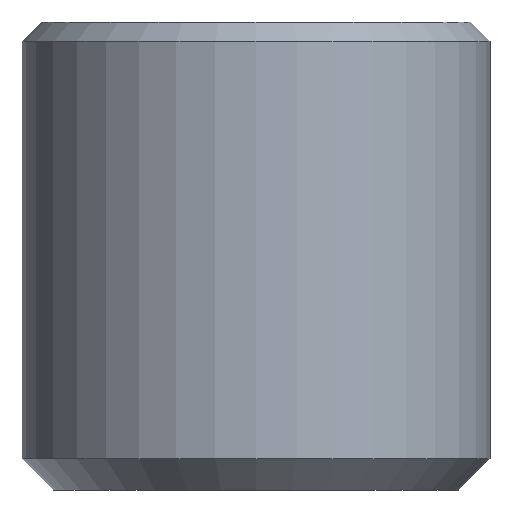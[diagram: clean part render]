
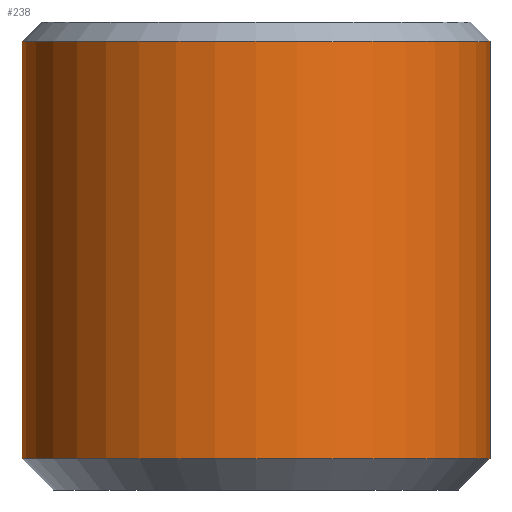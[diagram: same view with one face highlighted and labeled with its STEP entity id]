
A CAD part, front view. The second image highlights one B-rep face of the part: STEP entity #238.
In plain terms, the highlighted cylindrical face has radius 6 mm (diameter 12 mm), a partial arc.
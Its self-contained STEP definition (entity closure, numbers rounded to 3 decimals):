
#11 = CARTESIAN_POINT ( 'NONE',  ( -6., 0., 32. ) ) ;
#12 = CARTESIAN_POINT ( 'NONE',  ( 0., 0., 0.8 ) ) ;
#32 = LINE ( 'NONE', #333, #203 ) ;
#34 = AXIS2_PLACEMENT_3D ( 'NONE', #12, #173, #224 ) ;
#36 = EDGE_CURVE ( 'NONE', #349, #216, #67, .T. ) ;
#42 = CARTESIAN_POINT ( 'NONE',  ( 0., 0., 11.5 ) ) ;
#55 = VERTEX_POINT ( 'NONE', #84 ) ;
#62 = ORIENTED_EDGE ( 'NONE', *, *, #79, .T. ) ;
#67 = LINE ( 'NONE', #11, #163 ) ;
#75 = EDGE_LOOP ( 'NONE', ( #114, #228, #62, #128 ) ) ;
#79 = EDGE_CURVE ( 'NONE', #211, #55, #32, .T. ) ;
#82 = CARTESIAN_POINT ( 'NONE',  ( -6., 0., 0.8 ) ) ;
#84 = CARTESIAN_POINT ( 'NONE',  ( 6., 0., 11.5 ) ) ;
#86 = FACE_OUTER_BOUND ( 'NONE', #75, .T. ) ;
#92 = CARTESIAN_POINT ( 'NONE',  ( 6., 0., 0.8 ) ) ;
#96 = DIRECTION ( 'NONE',  ( -1., 0., 0. ) ) ;
#98 = AXIS2_PLACEMENT_3D ( 'NONE', #42, #342, #96 ) ;
#113 = DIRECTION ( 'NONE',  ( 0., 0., 1. ) ) ;
#114 = ORIENTED_EDGE ( 'NONE', *, *, #36, .F. ) ;
#128 = ORIENTED_EDGE ( 'NONE', *, *, #149, .T. ) ;
#149 = EDGE_CURVE ( 'NONE', #55, #216, #248, .T. ) ;
#160 = DIRECTION ( 'NONE',  ( 0., 0., 1. ) ) ;
#163 = VECTOR ( 'NONE', #113, 1000. ) ;
#173 = DIRECTION ( 'NONE',  ( 0., 0., 1. ) ) ;
#180 = CIRCLE ( 'NONE', #34, 6. ) ;
#190 = EDGE_CURVE ( 'NONE', #349, #211, #180, .T. ) ;
#192 = CARTESIAN_POINT ( 'NONE',  ( 0., 0., 32. ) ) ;
#197 = CARTESIAN_POINT ( 'NONE',  ( -6., 0., 11.5 ) ) ;
#203 = VECTOR ( 'NONE', #160, 1000. ) ;
#211 = VERTEX_POINT ( 'NONE', #92 ) ;
#216 = VERTEX_POINT ( 'NONE', #197 ) ;
#224 = DIRECTION ( 'NONE',  ( 1., 0., 0. ) ) ;
#228 = ORIENTED_EDGE ( 'NONE', *, *, #190, .T. ) ;
#238 = ADVANCED_FACE ( 'NONE', ( #86 ), #274, .T. ) ;
#240 = AXIS2_PLACEMENT_3D ( 'NONE', #192, #251, #300 ) ;
#248 = CIRCLE ( 'NONE', #98, 6. ) ;
#251 = DIRECTION ( 'NONE',  ( 0., 0., 1. ) ) ;
#274 = CYLINDRICAL_SURFACE ( 'NONE', #240, 6. ) ;
#300 = DIRECTION ( 'NONE',  ( 1., 0., 0. ) ) ;
#333 = CARTESIAN_POINT ( 'NONE',  ( 6., 0., 32. ) ) ;
#342 = DIRECTION ( 'NONE',  ( 0., 0., -1. ) ) ;
#349 = VERTEX_POINT ( 'NONE', #82 ) ;
